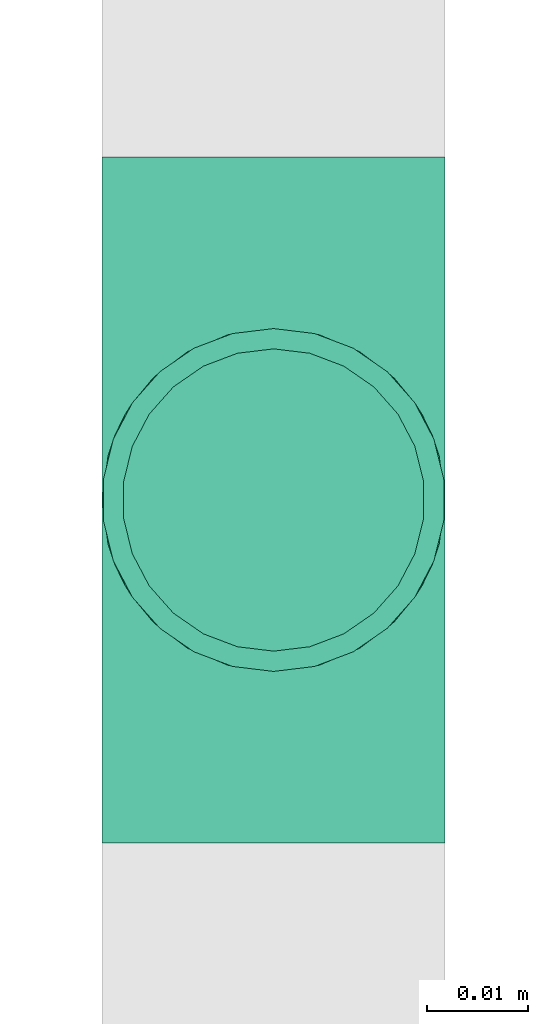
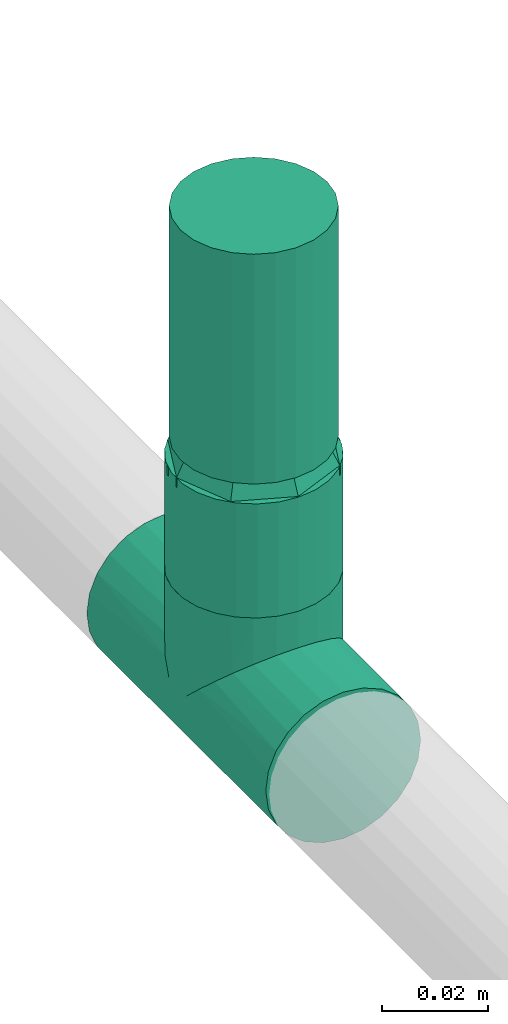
# One storey, part 28 of 45: 2 flow fittings, 1 flow segment, 1 flow terminal.
"""IFC2X3 building model written with IfcOpenShell, lengths in millimetres."""

import ifcopenshell
import ifcopenshell.guid

model = None  # the IFC model being written
_history = None  # IfcOwnerHistory: only IFC2X3 demands one
_inside = {}  # id of a spatial element -> (the spatial element, [elements in it])
_under = {}  # id of a project, library or spatial element -> (it, [spatial elements below it])
_declared = {}  # id of a project -> (the project, [libraries it declares])
_typed = {}  # id of a type object -> (the type object, [elements of that type])
_made_of = {}  # id of a material, layer set ... -> (it, [elements and type objects made of it])


def new_model(schema):
    """Start an empty IFC model of exactly this schema.

    Asked for "IFC4X3", IfcOpenShell would pick the latest addendum, in which some entities
    have other attributes; the version numbers below select the first issue.
    IFC2X3 requires an IfcOwnerHistory on every rooted entity: one is made here for all.
    """
    global model, _history
    if schema == "IFC4X3":
        model = ifcopenshell.file(schema_version=(4, 3, 0, 0))
    else:
        model = ifcopenshell.file(schema=schema)
    _inside.clear()
    _under.clear()
    _declared.clear()
    _typed.clear()
    _made_of.clear()
    _history = None
    if model.schema == "IFC2X3":
        org = make("IfcOrganization", Name="unknown")
        user = make(
            "IfcPersonAndOrganization",
            ThePerson=make("IfcPerson", FamilyName="unknown"),
            TheOrganization=org,
        )
        app = make(
            "IfcApplication",
            ApplicationDeveloper=org,
            Version="unknown",
            ApplicationFullName="unknown",
            ApplicationIdentifier="unknown",
        )
        _history = make(
            "IfcOwnerHistory",
            OwningUser=user,
            OwningApplication=app,
            ChangeAction="ADDED",
            CreationDate=0,
        )
    return model


def make(cls, **values):
    """One entity of the class cls with the attributes given. An attribute that is None is left unset."""
    return model.create_entity(
        cls, **{name: value for name, value in values.items() if value is not None}
    )


def entity(cls, *values):
    """Any entity or typed value of the class cls, its attributes in the order of the schema. None: left unset."""
    e = model.create_entity(cls)
    for i, value in enumerate(values):
        if value is not None:
            e[i] = value
    return e


def rooted(cls, **values):
    """An entity with a GlobalId (a new one), such as an element, a storey or a relation."""
    return make(cls, GlobalId=ifcopenshell.guid.new(), OwnerHistory=_history, **values)


def si_unit(unit_type, name, prefix=None):
    """IfcSIUnit, for example si_unit("LENGTHUNIT", "METRE", prefix="MILLI")."""
    return make("IfcSIUnit", UnitType=unit_type, Prefix=prefix, Name=name)


def converted_unit(unit_type, name, factor, base, dimensions=None, offset=None):
    """IfcConversionBasedUnit, such as the inch: factor (a typed value) times the base unit."""
    return make(
        "IfcConversionBasedUnit"
        if offset is None
        else "IfcConversionBasedUnitWithOffset",
        ConversionOffset=offset,
        Dimensions=None
        if dimensions is None
        else entity("IfcDimensionalExponents", *dimensions),
        UnitType=unit_type,
        Name=name,
        ConversionFactor=make(
            "IfcMeasureWithUnit", ValueComponent=factor, UnitComponent=base
        ),
    )


def derived_unit(unit_type, elements):
    """IfcDerivedUnit: a product of units, each with its exponent."""
    return make(
        "IfcDerivedUnit",
        Elements=[
            make("IfcDerivedUnitElement", Unit=unit, Exponent=power)
            for unit, power in elements
        ],
        UnitType=unit_type,
    )


def assignment(units):
    """IfcUnitAssignment: the units of a project."""
    return None if units is None else make("IfcUnitAssignment", Units=units)


def point(xyz):
    """IfcCartesianPoint."""
    return None if xyz is None else make("IfcCartesianPoint", Coordinates=xyz)


def direction(xyz):
    """IfcDirection."""
    return None if xyz is None else make("IfcDirection", DirectionRatios=xyz)


def frame(location, z_axis=None, x_axis=None):
    """IfcAxis2Placement3D, a coordinate frame: its origin and axes. An axis left out is left unset."""
    return make(
        "IfcAxis2Placement3D",
        Location=point(location),
        Axis=direction(z_axis),
        RefDirection=direction(x_axis),
    )


def frame_2d(location, x_axis=None):
    """IfcAxis2Placement2D, a coordinate frame in the plane: its origin and x axis."""
    return make(
        "IfcAxis2Placement2D", Location=point(location), RefDirection=direction(x_axis)
    )


def origin_with_axes():
    """The frame at (0, 0, 0) with the z axis (0, 0, 1) and the x axis (1, 0, 0) written out."""
    return frame((0.0, 0.0, 0.0), z_axis=(0.0, 0.0, 1.0), x_axis=(1.0, 0.0, 0.0))


def origin_2d_with_axis():
    """The frame at (0, 0) in the plane with the x axis (1, 0) written out."""
    return frame_2d((0.0, 0.0), x_axis=(1.0, 0.0))


def place(relative_to, where):
    """IfcLocalPlacement: puts the frame where relative to a parent placement (None: the world)."""
    return make(
        "IfcLocalPlacement", PlacementRelTo=relative_to, RelativePlacement=where
    )


def context(
    kind, dimensions, precision=None, world=None, true_north=None, identifier=None
):
    """IfcGeometricRepresentationContext, for example the 3D "Model" context."""
    return make(
        "IfcGeometricRepresentationContext",
        ContextIdentifier=identifier,
        ContextType=kind,
        CoordinateSpaceDimension=dimensions,
        Precision=precision,
        WorldCoordinateSystem=world,
        TrueNorth=true_north,
    )


def subcontext(parent, identifier, kind, view, scale=None):
    """IfcGeometricRepresentationSubContext, for example "Body" below "Model"."""
    return make(
        "IfcGeometricRepresentationSubContext",
        ContextIdentifier=identifier,
        ContextType=kind,
        ParentContext=parent,
        TargetScale=scale,
        TargetView=view,
    )


def project(units=None, contexts=None):
    """IfcProject with its units and contexts."""
    return rooted(
        "IfcProject",
        Name="project",
        RepresentationContexts=contexts,
        UnitsInContext=assignment(units),
    )


def spatial(cls, under=None, at=None, **own):
    """A site, building, storey or space (cls), placed at a placement, below another one or the project."""
    s = rooted(cls, ObjectPlacement=at, **own)
    if under is not None:
        _under.setdefault(under.id(), (under, []))[1].append(s)
    return s


def profile(cls, at=None, kind="AREA", **sizes):
    """A parametric profile (cls). Its sizes go by their IFC names, for example OverallWidth=200.0."""
    return make(cls, ProfileType=kind, Position=at, **sizes)


def hollow_circle(**sizes):
    """IfcCircleHollowProfileDef."""
    return profile("IfcCircleHollowProfileDef", **sizes)


def extrude(swept, where, along, depth):
    """IfcExtrudedAreaSolid: the profile swept, set in the frame where, extruded along a direction by depth."""
    return make(
        "IfcExtrudedAreaSolid",
        SweptArea=swept,
        Position=where,
        ExtrudedDirection=direction(along),
        Depth=depth,
    )


def faces_of(points, faces, orient=None, outer=None):
    """IfcFace entities. A face is a list of loops; a loop is a list of indices into points, from 0.

    orient and outer hold one flag for each loop. By default every Orientation is true, the
    first loop of a face is its IfcFaceOuterBound and the others are IfcFaceBound.
    """
    made = []
    for i, loops in enumerate(faces):
        bounds = []
        for j, loop in enumerate(loops):
            is_outer = j == 0 if outer is None else outer[i][j]
            bounds.append(
                make(
                    "IfcFaceOuterBound" if is_outer else "IfcFaceBound",
                    Bound=make("IfcPolyLoop", Polygon=[points[k] for k in loop]),
                    Orientation=True if orient is None else orient[i][j],
                )
            )
        made.append(make("IfcFace", Bounds=bounds))
    return made


def open_shell(faces, orient=None, outer=None):
    """The faces of one IfcOpenShell. surface_model builds it on its shared points."""
    return ("IfcOpenShell", faces, orient, outer)


def surface_model(cls, points, shells):
    """IfcFaceBasedSurfaceModel or IfcShellBasedSurfaceModel (cls): surfaces that need not close."""
    shared = [point(p) for p in points]
    made = [make(c, CfsFaces=faces_of(shared, fs, o, b)) for c, fs, o, b in shells]
    if cls == "IfcFaceBasedSurfaceModel":
        return make(cls, FbsmFaces=made)
    return make(cls, SbsmBoundary=made)


def shape(context_of_items, identifier, shape_type, items):
    """IfcShapeRepresentation: the items that make up one representation, for example the "Body"."""
    return make(
        "IfcShapeRepresentation",
        ContextOfItems=context_of_items,
        RepresentationIdentifier=identifier,
        RepresentationType=shape_type,
        Items=items,
    )


def source(mapping_origin, context_of_items, identifier, shape_type, items):
    """IfcRepresentationMap: a shape defined once, which mapped items show again and again."""
    return make(
        "IfcRepresentationMap",
        MappingOrigin=mapping_origin,
        MappedRepresentation=shape(context_of_items, identifier, shape_type, items),
    )


def transform(
    local_origin,
    x_axis=None,
    y_axis=None,
    z_axis=None,
    scale=None,
    scale2=None,
    scale3=None,
    uniform=True,
):
    """IfcCartesianTransformationOperator3D, or its non-uniform kind. x_axis, y_axis, z_axis: its Axis1, 2, 3."""
    if uniform:
        return make(
            "IfcCartesianTransformationOperator3D",
            Axis1=direction(x_axis),
            Axis2=direction(y_axis),
            LocalOrigin=point(local_origin),
            Scale=scale,
            Axis3=direction(z_axis),
        )
    return make(
        "IfcCartesianTransformationOperator3DnonUniform",
        Axis1=direction(x_axis),
        Axis2=direction(y_axis),
        LocalOrigin=point(local_origin),
        Scale=scale,
        Axis3=direction(z_axis),
        Scale2=scale2,
        Scale3=scale3,
    )


def mapped(mapping_source, mapping_target):
    """IfcMappedItem: shows the shape of a source again, moved by a transform."""
    return make(
        "IfcMappedItem", MappingSource=mapping_source, MappingTarget=mapping_target
    )


def made_of(thing, what):
    """Note that an element or type object is made of a material, layer set ...; save() writes the relation."""
    if what is not None:
        _made_of.setdefault(what.id(), (what, []))[1].append(thing)
    return thing


def type_object(cls, material=None, **own):
    """A type object (cls), such as IfcWallType, which elements share."""
    return made_of(rooted(cls, **own), material)


def element(
    cls,
    number,
    at=None,
    inside=None,
    cuts=None,
    type_object=None,
    material=None,
    context=None,
    identifier="Body",
    shape_type=None,
    held_by="IfcProductDefinitionShape",
    body=None,
    shapes=None,
    **own,
):
    """One element of the class cls, such as IfcWall. Its Tag is "e" and its number.

    at: its placement. inside: the storey or other place that contains it. cuts: it is an
    opening in that element (IfcRelVoidsElement). A single representation is given by context,
    identifier, shape_type and body (its items); several are given by shapes. held_by: the class
    of the entity that holds the representations. save() writes the other relations.
    """
    e = rooted(cls, Tag="e%d" % number, ObjectPlacement=at, **own)
    if body is not None:
        shapes = [shape(context, identifier, shape_type, body)]
    if shapes is not None:
        e.Representation = make(held_by, Representations=shapes)
    if inside is not None:
        _inside.setdefault(inside.id(), (inside, []))[1].append(e)
    if cuts is not None:
        rooted(
            "IfcRelVoidsElement", RelatingBuildingElement=cuts, RelatedOpeningElement=e
        )
    if type_object is not None:
        _typed.setdefault(type_object.id(), (type_object, []))[1].append(e)
    return made_of(e, material)


def aggregate(whole, parts):
    """IfcRelAggregates: a whole, such as a stair, and the parts it consists of."""
    return rooted("IfcRelAggregates", RelatingObject=whole, RelatedObjects=parts)


def save(model, path):
    """Write the relations noted so far, then the file.

    IfcRelAggregates (storeys below a building ...), IfcRelContainedInSpatialStructure (elements
    in a storey), IfcRelDefinesByType, IfcRelAssociatesMaterial and IfcRelDeclares: one each for
    every whole, place, type object, material and project.
    """
    for whole, parts in _under.values():
        aggregate(whole, parts)
    for where, things in _inside.values():
        rooted(
            "IfcRelContainedInSpatialStructure",
            RelatedElements=things,
            RelatingStructure=where,
        )
    for kind, things in _typed.values():
        rooted("IfcRelDefinesByType", RelatedObjects=things, RelatingType=kind)
    for what, things in _made_of.values():
        rooted("IfcRelAssociatesMaterial", RelatedObjects=things, RelatingMaterial=what)
    for by, libraries in _declared.values():
        rooted("IfcRelDeclares", RelatingContext=by, RelatedDefinitions=libraries)
    model.write(path)


model = new_model("IFC2X3")

# Units and contexts
model_context = context("Model", 3, precision=0.01, world=frame((0.0, 4.29681676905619e-09, 0.0)), true_north=direction((4.01073788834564e-13, 1.0)))
plan_context = context("Plan", 3, precision=0.01, world=frame((0.0, 4.29681676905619e-09, 0.0)), true_north=direction((4.01073788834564e-13, 1.0)))
body_context = subcontext(model_context, "Body", "Model", "MODEL_VIEW")
ifc_project = project(units=[converted_unit("PLANEANGLEUNIT", "DEGREE", entity("IfcPositiveLengthMeasure", 0.0174532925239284), si_unit("PLANEANGLEUNIT", "RADIAN"), dimensions=[0, 0, 0, 0, 0, 0, 0]), si_unit("AREAUNIT", "SQUARE_METRE"), si_unit("LENGTHUNIT", "METRE", prefix="MILLI"), si_unit("MASSUNIT", "GRAM", prefix="KILO"), si_unit("POWERUNIT", "WATT"), si_unit("PRESSUREUNIT", "PASCAL", prefix="KILO"), si_unit("FORCEUNIT", "NEWTON", prefix="KILO"), si_unit("ELECTRICVOLTAGEUNIT", "VOLT"), si_unit("ELECTRICCURRENTUNIT", "AMPERE"), si_unit("THERMODYNAMICTEMPERATUREUNIT", "DEGREE_CELSIUS"), si_unit("TIMEUNIT", "SECOND"), si_unit("VOLUMEUNIT", "CUBIC_METRE"), derived_unit("LINEARVELOCITYUNIT", [(si_unit("LENGTHUNIT", "METRE"), 1), (si_unit("TIMEUNIT", "SECOND"), -1)]), derived_unit("VOLUMETRICFLOWRATEUNIT", [(si_unit("VOLUMEUNIT", "CUBIC_METRE"), 1), (si_unit("TIMEUNIT", "SECOND"), -1)]), derived_unit("THERMALTRANSMITTANCEUNIT", [(si_unit("POWERUNIT", "WATT"), 1), (si_unit("THERMODYNAMICTEMPERATUREUNIT", "KELVIN"), -1), (si_unit("AREAUNIT", "SQUARE_METRE"), -1)]), derived_unit("SOUNDPRESSUREUNIT", [(si_unit("PRESSUREUNIT", "PASCAL"), 1)])], contexts=[model_context, plan_context])

# Site, building, storey
site_placement = place(None, frame((0.0, -4.29681676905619e-09, 0.0), z_axis=(0.0, 0.0, 1.0), x_axis=(1.0, 0.0, 0.0)))
site = spatial("IfcSite", under=ifc_project, at=site_placement, CompositionType="ELEMENT")
building_placement = place(site_placement, frame((0.0, 4.29681676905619e-09, 0.0), z_axis=(0.0, 0.0, 1.0), x_axis=(1.0, 0.0, 0.0)))
building = spatial("IfcBuilding", under=site, at=building_placement, Name="mc-building", CompositionType="ELEMENT")
storey_placement = place(building_placement, frame((0.0, 0.0, 210200.0), z_axis=(0.0, 0.0, 1.0), x_axis=(1.0, 0.0, 0.0)))
storey = spatial("IfcBuildingStorey", under=building, at=storey_placement, Name="Nivå F - 0,7 m", CompositionType="ELEMENT", Elevation=210200.0)

# Flow fittings
pipe_fitting_type_1 = type_object("IfcPipeFittingType", Name="magi_pipe_fe_tee_centric_90_001", PredefinedType="JUNCTION")
shared_shape_1 = source(origin_with_axes(), body_context, "Body", "SurfaceModel", [
    surface_model("IfcShellBasedSurfaceModel", [(-33.8, 4.37404, -16.32415), (-33.8, 0.0, -16.9), (-33.8, 16.32415, -4.37404), (-33.8, 8.45, -14.63583), (-33.8, 11.9501, -11.9501), (-33.8, 14.63583, -8.45), (-33.8, -16.9, 0.0), (-33.8, -11.9501, -11.9501), (-33.8, -14.63583, -8.45), (-33.8, -8.45, -14.63583), (-33.8, -4.37404, -16.32415), (-33.8, -16.32415, -4.37404), (-33.8, 14.63583, 8.45), (-33.8, 16.32415, 4.37404), (-33.8, -8.45, 14.63583), (-33.8, 8.45, 14.63583), (-33.8, 11.9501, 11.9501), (-33.8, 4.37404, 16.32415), (-33.8, 0.0, 16.9), (-33.8, -11.9501, 11.9501), (-33.8, -14.63583, 8.45), (-33.8, -16.32415, 4.37404), (-33.8, -4.37404, 16.32415), (-33.8, 16.9, 0.0), (33.8, 4.37404, -16.32415), (33.8, -16.9, 0.0), (33.8, 0.0, -16.9), (33.8, 14.63583, -8.45), (33.8, 8.45, -14.63583), (33.8, 16.32415, -4.37404), (33.8, 11.9501, -11.9501), (33.8, -16.32415, 4.37404), (33.8, -8.45, -14.63583), (33.8, -4.37404, -16.32415), (33.8, -11.9501, -11.9501), (33.8, -14.63583, -8.45), (33.8, -16.32415, -4.37404), (33.8, 16.32415, 4.37404), (33.8, 8.45, 14.63583), (33.8, 14.63583, 8.45), (33.8, 11.9501, 11.9501), (33.8, -8.45, 14.63583), (33.8, 4.37404, 16.32415), (33.8, -14.63583, 8.45), (33.8, -11.9501, 11.9501), (33.8, 0.0, 16.9), (33.8, -4.37404, 16.32415), (33.8, 16.9, 0.0), (16.28698, -16.28698, 4.51047), (16.9, -16.9, 0.0), (14.62704, -14.62704, 8.4652), (9.47213, -9.47213, 13.99602), (12.26343, -12.26343, 11.62834), (-16.9, -16.9, 0.0), (-16.28698, -16.28698, 4.51047), (-14.62704, -14.62704, 8.4652), (-12.26343, -12.26343, 11.62834), (-9.47213, -9.47213, 13.99602), (-6.42894, -6.42894, 15.62942), (6.42894, -6.42894, 15.62942), (3.24522, -3.24522, 16.58549), (0.0, 0.0, 16.9), (-3.24522, -3.24522, 16.58549), (3.24522, -3.24522, -16.58549), (0.0, 0.0, -16.9), (-3.24522, -3.24522, -16.58549), (-6.42894, -6.42894, -15.62942), (6.42894, -6.42894, -15.62942), (9.47213, -9.47213, -13.99602), (12.26343, -12.26343, -11.62834), (14.62704, -14.62704, -8.4652), (16.28698, -16.28698, -4.51047), (-9.47213, -9.47213, -13.99602), (-12.26343, -12.26343, -11.62834), (-16.28698, -16.28698, -4.51047), (-14.62704, -14.62704, -8.4652), (4.37404, -25.35, -16.32415), (-16.9, -25.35, 0.0), (0.0, -25.35, -16.9), (14.63583, -25.35, -8.45), (8.45, -25.35, -14.63583), (16.32415, -25.35, -4.37404), (11.9501, -25.35, -11.9501), (-11.9501, -25.35, -11.9501), (-8.45, -25.35, -14.63583), (-4.37404, -25.35, -16.32415), (-14.63583, -25.35, -8.45), (-16.32415, -25.35, -4.37404), (16.9, -25.35, 0.0), (8.45, -25.35, 14.63583), (16.32415, -25.35, 4.37404), (14.63583, -25.35, 8.45), (-8.45, -25.35, 14.63583), (11.9501, -25.35, 11.9501), (4.37404, -25.35, 16.32415), (-16.32415, -25.35, 4.37404), (-11.9501, -25.35, 11.9501), (-14.63583, -25.35, 8.45), (0.0, -25.35, 16.9), (-4.37404, -25.35, 16.32415)], [open_shell([[[0, 1, 2]], [[3, 0, 4]], [[0, 2, 5]], [[4, 0, 5]], [[6, 2, 1]], [[7, 8, 9]], [[1, 10, 9]], [[11, 6, 8]], [[1, 9, 8]], [[1, 8, 6]], [[6, 12, 2]], [[12, 13, 2]], [[14, 12, 6]], [[12, 14, 15]], [[16, 12, 15]], [[17, 15, 18]], [[19, 14, 20]], [[21, 20, 14]], [[22, 18, 14]], [[14, 6, 21]], [[14, 18, 15]], [[23, 2, 13]], [[24, 25, 26]], [[27, 24, 28]], [[27, 29, 24]], [[27, 28, 30]], [[31, 25, 24]], [[26, 32, 33]], [[26, 34, 32]], [[35, 25, 36]], [[35, 34, 26]], [[25, 35, 26]], [[24, 29, 31]], [[29, 37, 38]], [[38, 37, 39]], [[38, 31, 29]], [[38, 39, 40]], [[41, 38, 42]], [[43, 41, 44]], [[41, 43, 31]], [[41, 45, 46]], [[41, 31, 38]], [[42, 45, 41]], [[29, 47, 37]], [[31, 43, 48]], [[25, 31, 49]], [[49, 31, 48]], [[43, 50, 48]], [[44, 41, 51]], [[50, 43, 52]], [[51, 52, 44]], [[52, 43, 44]], [[53, 54, 21]], [[53, 21, 6]], [[21, 54, 20]], [[54, 55, 20]], [[56, 57, 19]], [[19, 20, 56]], [[19, 57, 14]], [[56, 20, 55]], [[14, 57, 58]], [[51, 41, 59]], [[60, 45, 61]], [[59, 46, 60]], [[46, 59, 41]], [[60, 46, 45]], [[61, 45, 42]], [[39, 37, 13]], [[16, 38, 40]], [[12, 40, 39]], [[42, 38, 15]], [[23, 37, 47]], [[62, 61, 18]], [[62, 22, 58]], [[22, 62, 18]], [[58, 22, 14]], [[61, 17, 18]], [[42, 17, 61]], [[15, 17, 42]], [[15, 38, 16]], [[12, 16, 40]], [[13, 12, 39]], [[37, 23, 13]], [[5, 27, 30]], [[23, 47, 29]], [[30, 28, 3]], [[27, 2, 29]], [[26, 33, 63]], [[26, 64, 24]], [[64, 26, 63]], [[28, 24, 0]], [[64, 0, 24]], [[4, 30, 3]], [[2, 27, 5]], [[5, 30, 4]], [[2, 23, 29]], [[65, 66, 10]], [[1, 0, 64]], [[1, 65, 10]], [[66, 9, 10]], [[0, 3, 28]], [[1, 64, 65]], [[63, 33, 67]], [[32, 34, 68]], [[69, 68, 34]], [[35, 70, 69]], [[69, 34, 35]], [[32, 68, 67]], [[36, 25, 49]], [[36, 71, 35]], [[71, 36, 49]], [[35, 71, 70]], [[72, 9, 66]], [[72, 7, 9]], [[7, 72, 73]], [[7, 73, 8]], [[74, 53, 11]], [[75, 74, 8]], [[74, 11, 8]], [[11, 53, 6]], [[75, 8, 73]], [[32, 67, 33]], [[76, 77, 78]], [[79, 76, 80]], [[79, 81, 76]], [[79, 80, 82]], [[77, 76, 81]], [[78, 83, 84]], [[84, 85, 78]], [[86, 77, 87]], [[83, 78, 86]], [[77, 86, 78]], [[81, 88, 77]], [[89, 88, 90]], [[89, 90, 91]], [[92, 77, 89]], [[89, 91, 93]], [[92, 89, 94]], [[95, 96, 97]], [[96, 95, 92]], [[92, 98, 99]], [[95, 77, 92]], [[94, 98, 92]], [[89, 77, 88]], [[77, 95, 53]], [[54, 53, 95]], [[97, 96, 56]], [[96, 92, 57]], [[95, 97, 54]], [[58, 92, 99]], [[55, 54, 97]], [[56, 55, 97]], [[58, 57, 92]], [[98, 61, 62]], [[58, 99, 62]], [[56, 96, 57]], [[62, 99, 98]], [[94, 60, 98]], [[89, 59, 94]], [[91, 90, 48]], [[52, 93, 91]], [[93, 51, 89]], [[49, 90, 88]], [[59, 60, 94]], [[51, 59, 89]], [[49, 48, 90]], [[50, 52, 91]], [[48, 50, 91]], [[51, 93, 52]], [[98, 60, 61]], [[88, 81, 49]], [[71, 49, 81]], [[79, 82, 69]], [[82, 80, 68]], [[81, 79, 71]], [[67, 80, 76]], [[70, 71, 79]], [[69, 70, 79]], [[67, 68, 80]], [[78, 64, 63]], [[67, 76, 63]], [[69, 82, 68]], [[63, 76, 78]], [[85, 65, 78]], [[84, 66, 85]], [[86, 87, 74]], [[86, 73, 83]], [[72, 84, 83]], [[53, 87, 77]], [[66, 65, 85]], [[72, 66, 84]], [[53, 74, 87]], [[75, 73, 86]], [[74, 75, 86]], [[72, 83, 73]], [[78, 65, 64]]])]),
])
flow_fitting_1_placement = place(storey_placement, frame((335657.5, 463176.80156, 2810.44542), z_axis=(-1.0, 0.0, 0.0), x_axis=(0.0, 1.0, 0.0)))
element("IfcFlowFitting", 1, at=flow_fitting_1_placement, inside=storey, type_object=pipe_fitting_type_1, Name="magi_pipe_fe_tee_centric_90_001", context=body_context, shape_type="MappedRepresentation", body=[
    mapped(shared_shape_1, transform((0.0, 0.0, 0.0), scale=1.0)),
])
pipe_fitting_type_2 = type_object("IfcPipeFittingType", Name="magi_pipe_fe_reducer_centric_short_001", PredefinedType="TRANSITION")
shared_shape_2 = source(origin_with_axes(), body_context, "Body", "SurfaceModel", [
    surface_model("IfcShellBasedSurfaceModel", [(9.0, 4.37404, -16.32415), (9.0, 8.45, -14.63583), (9.0, 11.9501, -11.9501), (9.0, 0.0, -16.9), (9.0, 16.32415, -4.37404), (9.0, 16.32415, 4.37404), (9.0, 14.63583, -8.45), (9.0, -8.45, -14.63583), (9.0, -4.37404, -16.32415), (9.0, -11.9501, -11.9501), (9.0, -16.32415, -4.37404), (9.0, -14.63583, -8.45), (9.0, -16.32415, 4.37404), (9.0, 16.9, 0.0), (9.0, 14.63583, 8.45), (9.0, 11.9501, 11.9501), (9.0, 4.37404, 16.32415), (9.0, 0.0, 16.9), (9.0, 8.45, 14.63583), (9.0, -14.63583, 8.45), (9.0, -16.9, 0.0), (9.0, -8.45, 14.63583), (9.0, -11.9501, 11.9501), (9.0, -4.37404, 16.32415), (7.0, 4.37404, 16.32415), (7.0, -14.63583, 8.45), (7.0, 0.0, 16.9), (7.0, 16.32415, 4.37404), (7.0, 8.45, 14.63583), (7.0, 11.9501, 11.9501), (7.0, 14.63583, 8.45), (7.0, -8.45, 14.63583), (7.0, -11.9501, 11.9501), (7.0, -4.37404, 16.32415), (7.0, -16.32415, 4.37404), (7.0, -16.32415, -4.37404), (7.0, -16.9, 0.0), (7.0, -8.45, -14.63583), (7.0, 16.32415, -4.37404), (7.0, 11.9501, -11.9501), (7.0, 14.63583, -8.45), (7.0, 8.45, -14.63583), (7.0, 4.37404, -16.32415), (7.0, 0.0, -16.9), (7.0, -11.9501, -11.9501), (7.0, -14.63583, -8.45), (7.0, -4.37404, -16.32415), (7.0, 16.9, 0.0), (-2.0, -9.47523, 9.47523), (-2.0, 0.0, 13.4), (-2.0, 3.46818, 12.94341), (-2.0, 6.7, 11.60474), (-2.0, 9.47523, 9.47523), (-2.0, 11.60474, 6.7), (-2.0, 12.94341, 3.46818), (-2.0, -3.46818, 12.94341), (-2.0, -6.7, 11.60474), (-2.0, -12.94341, 3.46818), (-2.0, -11.60474, 6.7), (-2.0, -6.7, -11.60474), (-2.0, -12.94341, -3.46818), (-2.0, -13.4, 0.0), (-2.0, 12.94341, -3.46818), (-2.0, 6.7, -11.60474), (-2.0, 9.47523, -9.47523), (-2.0, 11.60474, -6.7), (-2.0, 3.46818, -12.94341), (-2.0, 0.0, -13.4), (-2.0, -9.47523, -9.47523), (-2.0, -11.60474, -6.7), (-2.0, -3.46818, -12.94341), (-2.0, 13.4, 0.0), (0.0, 12.94341, -3.46818), (0.0, 3.46818, -12.94341), (0.0, 6.7, -11.60474), (0.0, 11.60474, -6.7), (0.0, 9.47523, -9.47523), (0.0, -6.7, -11.60474), (0.0, -12.94341, 3.46818), (0.0, -3.46818, -12.94341), (0.0, 0.0, -13.4), (0.0, -9.47523, -9.47523), (0.0, -12.94341, -3.46818), (0.0, -11.60474, -6.7), (0.0, 13.4, 0.0), (0.0, 12.94341, 3.46818), (0.0, 11.60474, 6.7), (0.0, 9.47523, 9.47523), (0.0, 0.0, 13.4), (0.0, 6.7, 11.60474), (0.0, 3.46818, 12.94341), (0.0, -9.47523, 9.47523), (0.0, -11.60474, 6.7), (0.0, -13.4, 0.0), (0.0, -3.46818, 12.94341), (0.0, -6.7, 11.60474), (7.0, -14.51228, -5.76448), (0.0, -11.43761, -4.73762), (7.0, -13.23119, -8.85729), (0.0, -10.45642, -7.10642), (0.0, -12.41881, -2.36881), (7.0, -15.70614, -2.88224), (0.0, -2.36881, -12.41881), (7.0, -5.97505, -14.42505), (0.0, -7.10642, -10.45642), (0.0, -4.73762, -11.43761), (7.0, -2.98753, -15.66253), (7.0, -8.96258, -13.18758), (7.0, 2.98753, -15.66253), (0.0, 2.36881, -12.41881), (0.0, 12.45339, -2.28533), (7.0, 13.18758, -8.96258), (0.0, 10.45642, -7.10642), (7.0, 14.42505, -5.97505), (0.0, 11.43761, -4.73762), (0.0, 7.10642, -10.45642), (7.0, 8.96258, -13.18758), (7.0, 15.66253, -2.98753), (0.0, 4.73762, -11.43761), (7.0, 5.97505, -14.42505), (7.0, 14.51228, 5.76448), (0.0, 11.43761, 4.73762), (7.0, 13.23119, 8.85729), (0.0, 10.45642, 7.10642), (0.0, 12.41881, 2.36881), (7.0, 15.70614, 2.88224), (0.0, 2.36881, 12.41881), (7.0, 5.97505, 14.42505), (0.0, 7.10642, 10.45642), (0.0, 4.73762, 11.43761), (7.0, 2.98753, 15.66253), (7.0, 8.96258, 13.18758), (7.0, -2.98753, 15.66253), (0.0, -2.36881, 12.41881), (0.0, -12.45339, 2.28533), (7.0, -13.18758, 8.96258), (0.0, -10.45642, 7.10642), (7.0, -14.42505, 5.97505), (0.0, -11.43761, 4.73762), (0.0, -7.10642, 10.45642), (7.0, -8.96258, 13.18758), (7.0, -15.66253, 2.98753), (0.0, -4.73762, 11.43761), (7.0, -5.97505, 14.42505)], [open_shell([[[0, 1, 2]], [[3, 0, 2]], [[2, 4, 5]], [[4, 2, 6]], [[2, 5, 7]], [[3, 7, 8]], [[3, 2, 7]], [[9, 10, 11]], [[10, 9, 7]], [[7, 12, 10]], [[5, 4, 13]], [[5, 14, 15]], [[5, 15, 16]], [[16, 17, 5]], [[16, 15, 18]], [[5, 17, 19]], [[5, 19, 12]], [[20, 10, 12]], [[19, 21, 22]], [[19, 17, 21]], [[21, 17, 23]], [[12, 7, 5]], [[24, 25, 26]], [[27, 24, 28]], [[29, 30, 27]], [[29, 27, 28]], [[25, 24, 27]], [[31, 25, 32]], [[25, 31, 33]], [[26, 25, 33]], [[27, 34, 25]], [[34, 35, 36]], [[34, 27, 37]], [[27, 38, 39]], [[39, 38, 40]], [[39, 41, 42]], [[37, 27, 39]], [[42, 43, 39]], [[35, 44, 45]], [[44, 35, 37]], [[37, 43, 46]], [[35, 34, 37]], [[39, 43, 37]], [[38, 27, 47]], [[35, 10, 36]], [[45, 11, 35]], [[7, 44, 37]], [[45, 44, 9]], [[8, 37, 46]], [[35, 11, 10]], [[10, 20, 36]], [[8, 7, 37]], [[9, 44, 7]], [[9, 11, 45]], [[3, 8, 46]], [[46, 43, 3]], [[42, 0, 43]], [[41, 1, 42]], [[6, 39, 40]], [[41, 39, 2]], [[4, 40, 38]], [[41, 2, 1]], [[1, 0, 42]], [[13, 4, 38]], [[6, 40, 4]], [[6, 2, 39]], [[47, 13, 38]], [[43, 0, 3]], [[27, 5, 47]], [[30, 14, 27]], [[18, 29, 28]], [[30, 29, 15]], [[16, 28, 24]], [[27, 14, 5]], [[5, 13, 47]], [[16, 18, 28]], [[15, 29, 18]], [[15, 14, 30]], [[17, 16, 24]], [[24, 26, 17]], [[33, 23, 26]], [[31, 21, 33]], [[19, 32, 25]], [[31, 32, 22]], [[12, 25, 34]], [[31, 22, 21]], [[21, 23, 33]], [[20, 12, 34]], [[19, 25, 12]], [[19, 22, 32]], [[36, 20, 34]], [[26, 23, 17]], [[48, 49, 50]], [[51, 48, 50]], [[52, 53, 54]], [[52, 54, 51]], [[48, 51, 54]], [[55, 48, 56]], [[55, 49, 48]], [[48, 57, 58]], [[48, 59, 57]], [[57, 60, 61]], [[62, 48, 54]], [[48, 62, 63]], [[64, 62, 65]], [[66, 48, 63]], [[63, 62, 64]], [[66, 67, 48]], [[60, 68, 69]], [[60, 57, 68]], [[70, 59, 48]], [[57, 59, 68]], [[70, 48, 67]], [[71, 62, 54]], [[72, 73, 74]], [[75, 74, 76]], [[77, 73, 78]], [[72, 74, 75]], [[73, 72, 78]], [[73, 79, 80]], [[73, 77, 79]], [[81, 82, 83]], [[78, 82, 81]], [[81, 77, 78]], [[72, 84, 78]], [[85, 86, 87]], [[85, 87, 88]], [[89, 90, 88]], [[89, 88, 87]], [[85, 88, 91]], [[78, 91, 92]], [[93, 82, 78]], [[91, 94, 95]], [[91, 78, 85]], [[94, 91, 88]], [[78, 84, 85]], [[60, 82, 61]], [[69, 83, 60]], [[77, 68, 59]], [[69, 68, 81]], [[79, 59, 70]], [[60, 83, 82]], [[82, 93, 61]], [[79, 77, 59]], [[81, 68, 77]], [[81, 83, 69]], [[80, 79, 70]], [[70, 67, 80]], [[66, 73, 67]], [[63, 74, 66]], [[75, 64, 65]], [[63, 64, 76]], [[72, 65, 62]], [[63, 76, 74]], [[74, 73, 66]], [[84, 72, 62]], [[75, 65, 72]], [[75, 76, 64]], [[71, 84, 62]], [[67, 73, 80]], [[54, 85, 71]], [[53, 86, 54]], [[89, 52, 51]], [[53, 52, 87]], [[90, 51, 50]], [[54, 86, 85]], [[85, 84, 71]], [[90, 89, 51]], [[87, 52, 89]], [[87, 86, 53]], [[88, 90, 50]], [[50, 49, 88]], [[55, 94, 49]], [[56, 95, 55]], [[92, 48, 58]], [[56, 48, 91]], [[78, 58, 57]], [[56, 91, 95]], [[95, 94, 55]], [[93, 78, 57]], [[92, 58, 78]], [[92, 91, 48]], [[61, 93, 57]], [[49, 94, 88]], [[36, 29, 26]], [[39, 47, 29]], [[26, 32, 36]], [[36, 44, 43]], [[43, 39, 36]], [[36, 39, 29]], [[81, 91, 88]], [[81, 93, 91]], [[88, 87, 84]], [[84, 76, 81]], [[80, 81, 76]], [[84, 81, 88]], [[96, 97, 98]], [[81, 44, 99]], [[100, 96, 101]], [[102, 80, 43]], [[103, 104, 105]], [[102, 43, 106]], [[107, 81, 104]], [[108, 80, 109]], [[110, 84, 47]], [[93, 101, 36]], [[108, 43, 80]], [[111, 76, 112]], [[113, 112, 114]], [[115, 39, 116]], [[110, 47, 117]], [[99, 98, 97]], [[117, 113, 114]], [[106, 103, 105]], [[118, 116, 119]], [[109, 118, 119]], [[96, 100, 97]], [[93, 100, 101]], [[99, 44, 98]], [[104, 103, 107]], [[107, 44, 81]], [[106, 105, 102]], [[112, 113, 111]], [[111, 39, 76]], [[117, 114, 110]], [[116, 118, 115]], [[115, 76, 39]], [[109, 119, 108]], [[120, 121, 122]], [[87, 29, 123]], [[124, 120, 125]], [[126, 88, 26]], [[127, 128, 129]], [[126, 26, 130]], [[131, 87, 128]], [[132, 88, 133]], [[134, 93, 36]], [[84, 125, 47]], [[132, 26, 88]], [[135, 91, 136]], [[137, 136, 138]], [[139, 32, 140]], [[134, 36, 141]], [[123, 122, 121]], [[141, 137, 138]], [[130, 127, 129]], [[142, 140, 143]], [[133, 142, 143]], [[120, 124, 121]], [[84, 124, 125]], [[123, 29, 122]], [[128, 127, 131]], [[131, 29, 87]], [[130, 129, 126]], [[136, 137, 135]], [[135, 32, 91]], [[141, 138, 134]], [[140, 142, 139]], [[139, 91, 32]], [[133, 143, 132]]])]),
])
flow_fitting_2_placement = place(storey_placement, frame((335657.5, 463176.80156, 2869.04800000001), z_axis=(1.0, 0.0, 0.0), x_axis=(0.0, 0.0, -1.0)))
element("IfcFlowFitting", 2, at=flow_fitting_2_placement, inside=storey, type_object=pipe_fitting_type_2, Name="magi_pipe_fe_reducer_centric_short_001", context=body_context, shape_type="MappedRepresentation", body=[
    mapped(shared_shape_2, transform((0.0, 0.0, 0.0), scale=1.0)),
])

# Flow segment
pipe_segment_type = type_object("IfcPipeSegmentType", Name="Stålrør normaltykke", PredefinedType="RIGIDSEGMENT")
shared_shape_3 = source(origin_with_axes(), body_context, "Body", "SweptSolid", [
    extrude(hollow_circle(Radius=16.9, WallThickness=2.0, at=origin_2d_with_axis()), frame((0.0, 0.0, 0.0), z_axis=(1.0, 0.0, 0.0), x_axis=(0.0, 1.0, 0.0)), (0.0, 0.0, 1.0), 26.3),
])
flow_segment_placement = place(storey_placement, frame((335657.5, 463176.80156, 2862.04800000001), z_axis=(1.0, 0.0, 0.0), x_axis=(0.0, 0.0, -1.0)))
element("IfcFlowSegment", 3, at=flow_segment_placement, inside=storey, type_object=pipe_segment_type, Name="Stålrør normaltykke", context=body_context, shape_type="MappedRepresentation", body=[
    mapped(shared_shape_3, transform((0.0, 0.0, 0.0), scale=1.0)),
])

# Flow terminal
fire_suppression_terminal_type = type_object("IfcFireSuppressionTerminalType", Name="SP-15-K80-68DGR-STD", PredefinedType="NOTDEFINED")
shared_shape_4 = source(origin_with_axes(), body_context, "Body", "SurfaceModel", [
    surface_model("IfcShellBasedSurfaceModel", [(4.1411, -15.45481, 53.0), (8.0, -13.85641, 53.0), (11.31371, -11.31371, 53.0), (-8.0, -13.85641, 53.0), (15.45481, -4.1411, 53.0), (16.0, 0.0, 53.0), (13.85641, -8.0, 53.0), (0.0, -16.0, 53.0), (-4.1411, -15.45481, 53.0), (-13.85641, -8.0, 53.0), (-11.31371, -11.31371, 53.0), (-15.45481, -4.1411, 53.0), (15.45481, 4.1411, 53.0), (13.85641, 8.0, 53.0), (11.31371, 11.31371, 53.0), (-4.1411, 15.45481, 53.0), (8.0, 13.85641, 53.0), (4.1411, 15.45481, 53.0), (0.0, 16.0, 53.0), (-13.85641, 8.0, 53.0), (-15.45481, 4.1411, 53.0), (-16.0, 0.0, 53.0), (-11.31371, 11.31371, 53.0), (-8.0, 13.85641, 53.0), (0.0, 16.0, 0.0), (4.1411, 15.45481, 0.0), (8.0, 13.85641, 0.0), (-4.1411, 15.45481, 0.0), (11.31371, 11.31371, 0.0), (13.85641, 8.0, 0.0), (15.45481, 4.1411, 0.0), (-15.45481, -4.1411, 0.0), (-11.31371, 11.31371, 0.0), (-8.0, 13.85641, 0.0), (-13.85641, 8.0, 0.0), (-15.45481, 4.1411, 0.0), (-16.0, 0.0, 0.0), (4.1411, -15.45481, 0.0), (16.0, 0.0, 0.0), (15.45481, -4.1411, 0.0), (13.85641, -8.0, 0.0), (11.31371, -11.31371, 0.0), (8.0, -13.85641, 0.0), (-8.0, -13.85641, 0.0), (-13.85641, -8.0, 0.0), (-11.31371, -11.31371, 0.0), (0.0, -16.0, 0.0), (-4.1411, -15.45481, 0.0)], [open_shell([[[0, 1, 2]], [[3, 0, 2]], [[4, 5, 2]], [[4, 2, 6]], [[3, 2, 5]], [[7, 3, 8]], [[7, 0, 3]], [[3, 9, 10]], [[9, 3, 11]], [[5, 11, 3]], [[5, 12, 11]], [[12, 13, 14]], [[15, 12, 14]], [[16, 17, 18]], [[14, 16, 15]], [[18, 15, 16]], [[11, 19, 20]], [[21, 11, 20]], [[22, 15, 23]], [[15, 22, 19]], [[19, 11, 15]], [[11, 12, 15]], [[24, 25, 26]], [[27, 24, 26]], [[28, 29, 30]], [[27, 26, 28]], [[27, 28, 31]], [[27, 32, 33]], [[32, 27, 34]], [[34, 31, 35]], [[31, 34, 27]], [[35, 31, 36]], [[28, 30, 31]], [[37, 38, 39]], [[37, 39, 40]], [[41, 42, 37]], [[41, 37, 40]], [[38, 37, 43]], [[44, 43, 45]], [[43, 44, 31]], [[43, 46, 47]], [[43, 31, 38]], [[37, 46, 43]], [[38, 31, 30]], [[11, 31, 44]], [[45, 9, 44]], [[3, 43, 47]], [[45, 43, 10]], [[8, 47, 46]], [[31, 21, 36]], [[31, 11, 21]], [[44, 9, 11]], [[45, 10, 9]], [[3, 10, 43]], [[47, 8, 3]], [[46, 7, 8]], [[0, 37, 42]], [[41, 1, 42]], [[6, 40, 39]], [[41, 40, 2]], [[4, 39, 38]], [[37, 0, 7]], [[42, 1, 0]], [[41, 2, 1]], [[40, 6, 2]], [[4, 6, 39]], [[38, 5, 4]], [[37, 7, 46]], [[12, 38, 30]], [[13, 30, 29]], [[16, 26, 25]], [[17, 25, 24]], [[30, 13, 12]], [[12, 5, 38]], [[28, 14, 13]], [[28, 26, 14]], [[14, 26, 16]], [[25, 17, 16]], [[28, 13, 29]], [[24, 18, 17]], [[15, 27, 33]], [[32, 23, 33]], [[19, 34, 35]], [[32, 34, 22]], [[20, 35, 36]], [[27, 15, 18]], [[33, 23, 15]], [[32, 22, 23]], [[34, 19, 22]], [[20, 19, 35]], [[36, 21, 20]], [[27, 18, 24]]])]),
])
flow_terminal_placement = place(storey_placement, frame((335657.5, 463176.80156, 2866.0), z_axis=(0.0, 0.0, 1.0), x_axis=(1.0, 0.0, 0.0)))
element("IfcFlowTerminal", 4, at=flow_terminal_placement, inside=storey, type_object=fire_suppression_terminal_type, Name="SP-15-K80-68DGR-STD", context=body_context, shape_type="MappedRepresentation", body=[
    mapped(shared_shape_4, transform((0.0, 0.0, 0.0), scale=1.0)),
])

save(model, "model.ifc")
